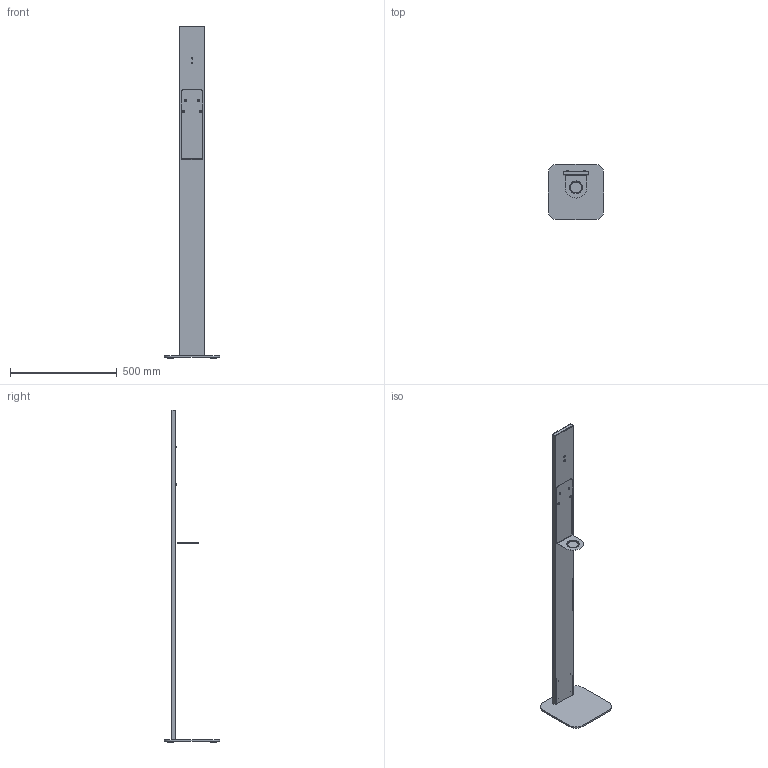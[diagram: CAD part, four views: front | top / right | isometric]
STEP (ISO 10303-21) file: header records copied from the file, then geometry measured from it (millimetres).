
FILE_DESCRIPTION(/* description */ ('Fodplade for gulvstander'),/* implementation_level */ '2;1');
FILE_NAME(/* name */ 'X:\Standardvarer\3180-3182 Gulvstander\Tegninger DD-280519-xxx Gulvstander\STP\DD-280519-000.stp',/* time_stamp */ '2020-03-17T15:05:14+01:00',/* author */ ('Dan Dryer'),/* organization */ (''),/* preprocessor_version */ 'ST-DEVELOPER v16.1',/* originating_system */ 'Autodesk Inventor 2016',/* authorisation */ '');
FILE_SCHEMA (('AUTOMOTIVE_DESIGN { 1 0 10303 214 3 1 1 }'));
Length unit declared in the file: millimetre
Products named in the file (12): DD-280519-101; DD-280519-102; DD-280519-100; DD-280519-110; DD-270519-200; DD-270519- nittemøtrik med rundt fladhoved M4; DD-270519- nittemøtrik med rundt lille undersænket hoved M5; 40067; DD-270519-Skrue M6x12; DD-280519-200; DD-270519-Gummipude; DD-280519-000
Assembly tree (27 placements, depth 3):
  DD-280519-000
    DD-280519-100
      DD-280519-101
      DD-280519-102
    DD-280519-110
    DD-270519-200
    DD-270519- nittemøtrik med rundt fladhoved M4  x6
    DD-270519- nittemøtrik med rundt lille undersænket hoved M5  x4
    40067  x3
    DD-270519-Skrue M6x12  x4
    DD-280519-200
    DD-270519-Gummipude  x4
Bounding box: 260 x 260 x 1553 mm (x, y, z)
Volume: 1476440.3 mm3; surface area: 1109829.7 mm2
Topology: 26 solids, 26 shells, 334 faces, 701 edges, 448 vertices
Faces by surface type: plane 188, cylinder 99, cone 26, torus 21
Full cylindrical faces by diameter (mm): 3.242 x6, 4 x3, 4.2 x4, 5 x6, 5.5 x4, 5.9 x6, 6 x4, 6.3 x6, 7 x8, 7.2 x4, 7.7 x3, 9 x6, 10 x4, 10.5 x4, 30 x4
Entity records: 5302 total; most frequent: DIRECTION 930, CARTESIAN_POINT 859, ORIENTED_EDGE 732, EDGE_CURVE 366, AXIS2_PLACEMENT_3D 351, EDGE_LOOP 282, VERTEX_POINT 262, LINE 228
